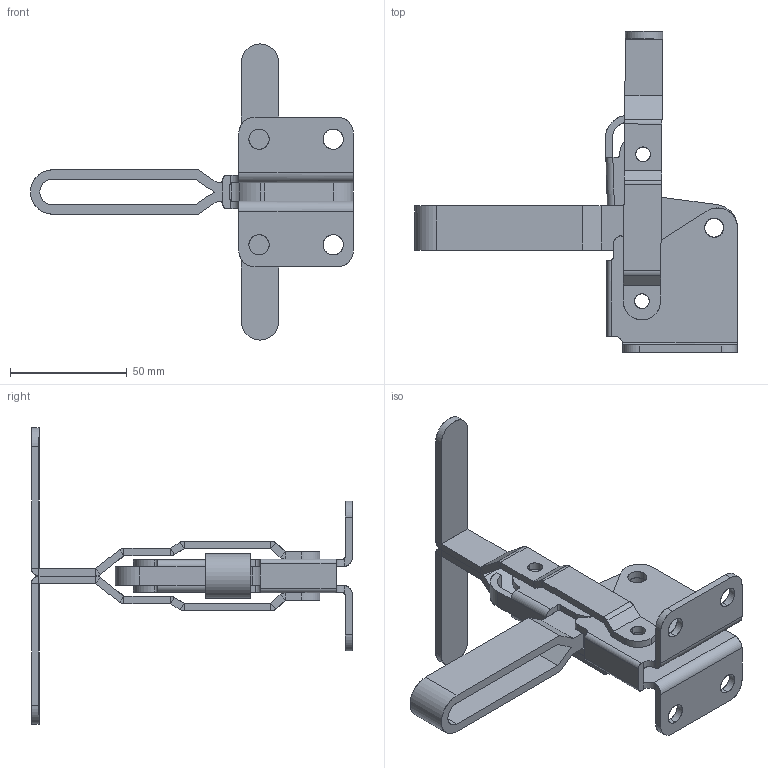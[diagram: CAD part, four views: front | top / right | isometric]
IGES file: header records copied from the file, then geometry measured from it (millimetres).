
Start section: SolidWorks IGES file using analytic representation for surfaces
Global section: file name: D:\GH Files\GH-SW-FILES\GH1\GH-12270\12285\GH-12285.IGS; native system: SolidWorks 2006 by SolidWorks Corporation; preprocessor: SolidWorks 2006 by SolidWorks Corporation; author: Administrator; date: 060825.154435; units: millimetre
Bounding box: 138.51 x 137.66 x 127 mm (x, y, z)
Surface area: 48590.5 mm2 (no closed solid volume)
Topology: 0 solids, 0 shells, 264 faces, 3342 edges, 3342 vertices
Faces by surface type: bspline 146, revolution 118
